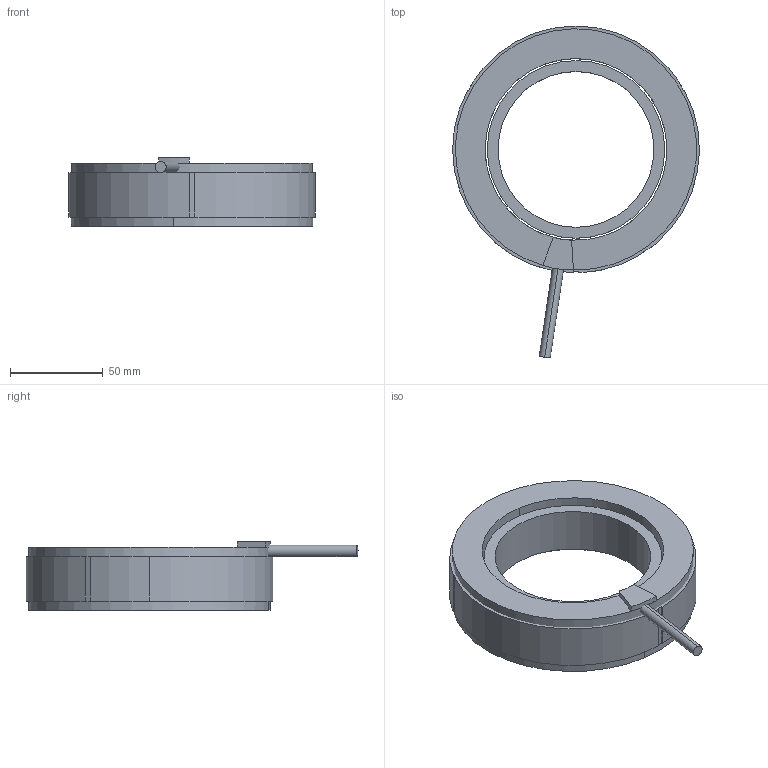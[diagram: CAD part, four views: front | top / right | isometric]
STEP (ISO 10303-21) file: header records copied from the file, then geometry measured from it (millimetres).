
FILE_DESCRIPTION (( 'STEP AP203' ), '1' );
FILE_NAME ('TM133-34 KIT 3D.STEP', '2021-06-21T03:30:07', ( '' ), ( '' ), 'SwSTEP 2.0', 'SolidWorks 2021', '' );
FILE_SCHEMA (( 'CONFIG_CONTROL_DESIGN' ));
Length unit declared in the file: millimetre
Products named in the file (1): TM133-34 KIT 3D
Bounding box: 133 x 178.9 x 37 mm (x, y, z)
Volume: 285330.8 mm3; surface area: 78299.6 mm2
Topology: 4 solids, 4 shells, 131 faces, 364 edges, 240 vertices
Faces by surface type: plane 72, cylinder 59
Entity records: 4307 total; most frequent: DIRECTION 750, CARTESIAN_POINT 736, ORIENTED_EDGE 728, EDGE_CURVE 364, AXIS2_PLACEMENT_3D 254, LINE 242, VECTOR 242, VERTEX_POINT 240
